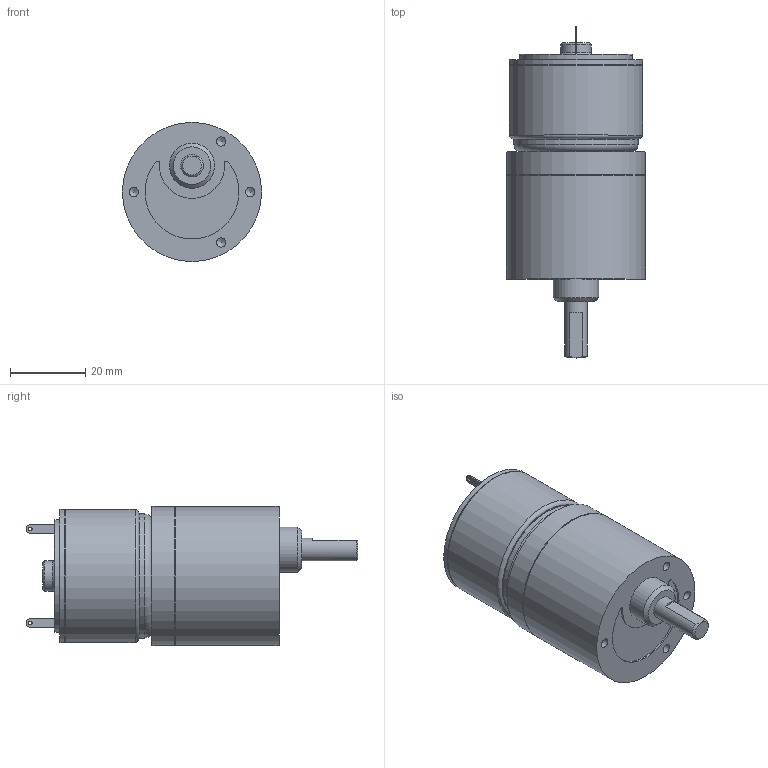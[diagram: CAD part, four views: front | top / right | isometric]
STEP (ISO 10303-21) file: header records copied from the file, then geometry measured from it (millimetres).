
FILE_DESCRIPTION((''),'2;1');
FILE_NAME('C:\Documents and Settings\SSEGAWA\デスクトップ\TP-3526G-HM-6.STP','2013-07-09T17:34:10',('SSEGAWA'),(''),'Autodesk Inventor 2010','Autodesk Inventor 2010','');
FILE_SCHEMA(('CONFIG_CONTROL_DESIGN'));
Length unit declared in the file: millimetre
Products named in the file (3): tp_3526g_hm_6; hm_6; tp_3526g
Assembly tree (2 placements, depth 2):
  tp_3526g_hm_6
    hm_6
    tp_3526g
Bounding box: 37 x 88.3 x 37 mm (x, y, z)
Volume: 62153 mm3; surface area: 11778.8 mm2
Topology: 2 solids, 2 shells, 75 faces, 157 edges, 103 vertices
Faces by surface type: plane 29, cylinder 22, bspline 17, torus 4, cone 3
Full cylindrical faces by diameter (mm): 2 x1, 2.4 x1, 5 x2, 6 x1, 8 x1, 10 x1, 12 x1, 30 x1, 33 x1, 35 x1, 35.4 x2, 36.6 x1, 37 x2
Entity records: 2055 total; most frequent: CARTESIAN_POINT 639, DIRECTION 295, ORIENTED_EDGE 200, EDGE_LOOP 135, AXIS2_PLACEMENT_3D 134, EDGE_CURVE 100, VERTEX_POINT 85, FACE_OUTER_BOUND 75
